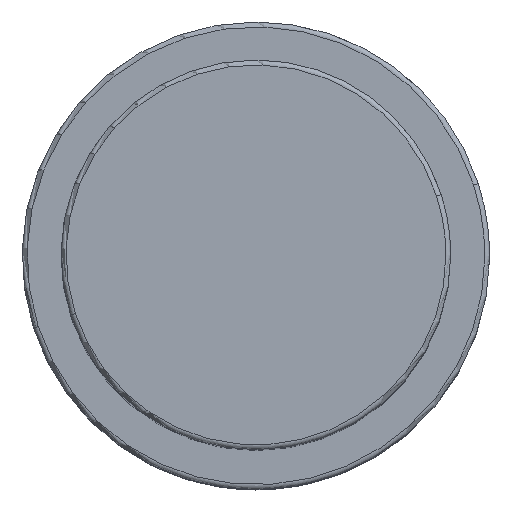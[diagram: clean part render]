
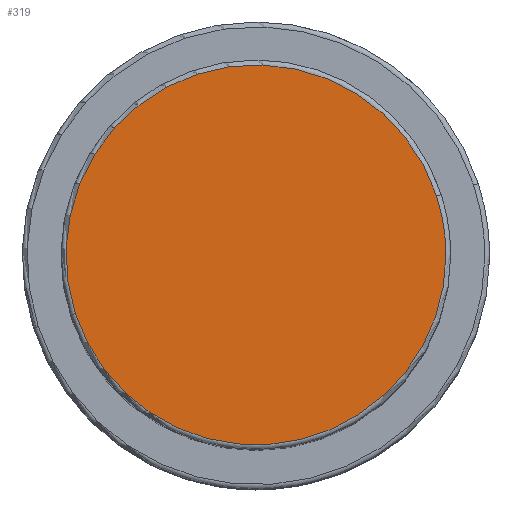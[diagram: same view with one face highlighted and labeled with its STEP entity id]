
A CAD part, top view. The second image highlights one B-rep face of the part: STEP entity #319.
In plain terms, the highlighted planar face has unit normal (0, 0, 1).
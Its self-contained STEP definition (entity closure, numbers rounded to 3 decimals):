
#285=CARTESIAN_POINT('',(19.5,0.0,68.5));
#286=VERTEX_POINT('',#285);
#287=CARTESIAN_POINT('',(18.546,6.026,68.5));
#288=VERTEX_POINT('',#287);
#289=CARTESIAN_POINT('',(0.0,0.0,68.5));
#290=DIRECTION('',(0.0,0.0,1.0));
#291=DIRECTION('',(1.0,0.0,0.0));
#292=AXIS2_PLACEMENT_3D('',#289,#290,#291);
#293=CIRCLE('',#292,19.5);
#294=EDGE_CURVE('no 833',#286,#288,#293,.T.);
#295=ORIENTED_EDGE('',*,*,#294,.T.);
#296=CARTESIAN_POINT('',(-18.546,-6.026,68.5));
#297=VERTEX_POINT('',#296);
#298=CARTESIAN_POINT('',(0.0,0.0,68.5));
#299=DIRECTION('',(0.0,0.0,1.0));
#300=DIRECTION('',(1.0,0.0,0.0));
#301=AXIS2_PLACEMENT_3D('',#298,#299,#300);
#302=CIRCLE('',#301,19.5);
#303=EDGE_CURVE('no 839',#288,#297,#302,.T.);
#304=ORIENTED_EDGE('',*,*,#303,.T.);
#305=CARTESIAN_POINT('',(0.0,0.0,68.5));
#306=DIRECTION('',(0.0,0.0,1.0));
#307=DIRECTION('',(1.0,0.0,0.0));
#308=AXIS2_PLACEMENT_3D('',#305,#306,#307);
#309=CIRCLE('',#308,19.5);
#310=EDGE_CURVE('no 843',#297,#286,#309,.T.);
#311=ORIENTED_EDGE('',*,*,#310,.T.);
#312=EDGE_LOOP('',(#295,#304,#311));
#313=FACE_OUTER_BOUND('',#312,.T.);
#314=CARTESIAN_POINT('',(0.0,0.0,68.5));
#315=DIRECTION('',(0.0,0.0,1.0));
#316=DIRECTION('',(1.0,0.0,0.0));
#317=AXIS2_PLACEMENT_3D('',#314,#315,#316);
#318=PLANE('',#317);
#319=ADVANCED_FACE('no 824',(#313),#318,.T.);
